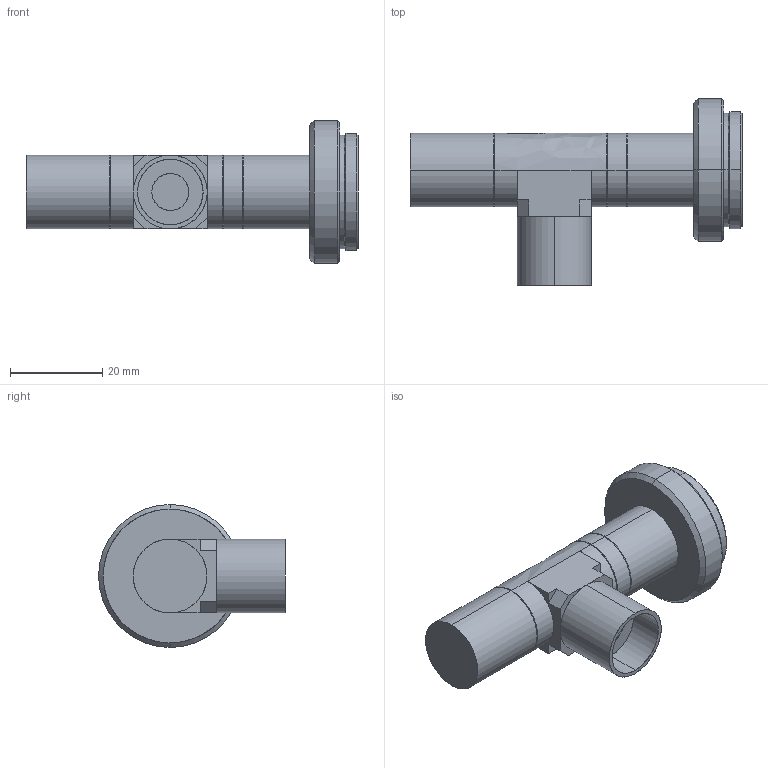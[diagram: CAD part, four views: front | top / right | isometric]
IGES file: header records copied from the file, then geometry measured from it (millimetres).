
Start section: SolidWorks IGES file using analytic representation for surfaces
Bounding box: 72 x 40.5 x 31 mm (x, y, z)
Surface area: 7050.1 mm2 (no closed solid volume)
Topology: 0 solids, 0 shells, 64 faces, 724 edges, 724 vertices
Faces by surface type: revolution 41, bspline 23
